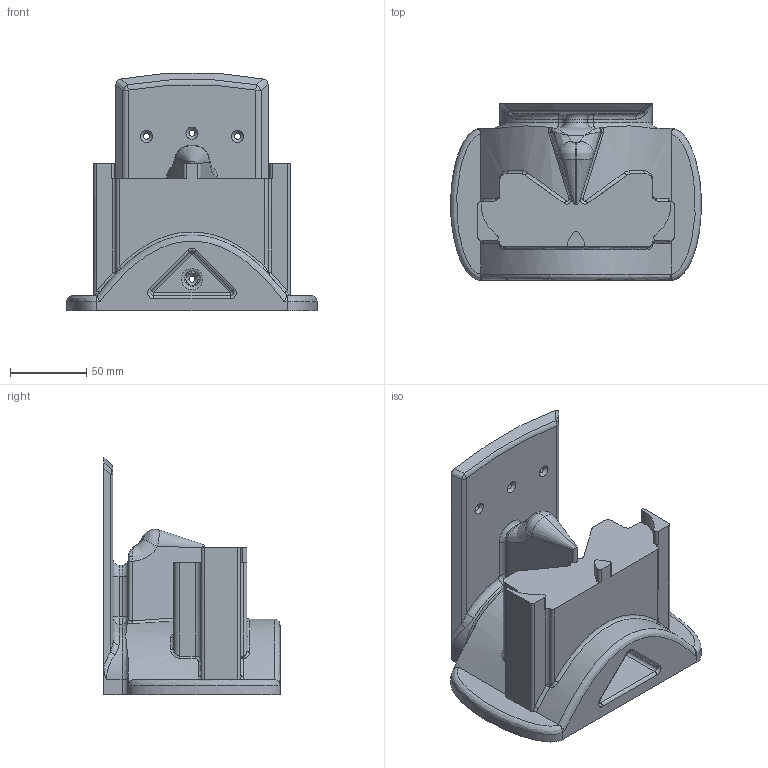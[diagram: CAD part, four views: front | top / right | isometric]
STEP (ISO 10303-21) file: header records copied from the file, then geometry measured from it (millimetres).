
FILE_DESCRIPTION(/* description */ (''),/* implementation_level */ '2;1');
FILE_NAME(/* name */ 'D:\Users\User\Documents\Inventor Projects\ViveHMDMount\ViveWallMount.stp',/* time_stamp */ '2016-04-27T01:15:38+02:00',/* author */ ('User'),/* organization */ (''),/* preprocessor_version */ 'ST-DEVELOPER v16.1',/* originating_system */ 'Autodesk Inventor 2016',/* authorisation */ '');
FILE_SCHEMA (('AUTOMOTIVE_DESIGN { 1 0 10303 214 3 1 1 }'));
Length unit declared in the file: millimetre
Products named in the file (1): BasePlate
Bounding box: 164.99 x 116 x 156.51 mm (x, y, z)
Volume: 857838.9 mm3; surface area: 107352.4 mm2
Topology: 1 solids, 1 shells, 182 faces, 450 edges, 270 vertices
Faces by surface type: bspline 61, cylinder 60, plane 42, torus 7, sphere 7, cone 5
Full cylindrical faces by diameter (mm): 4 x4, 10 x1
Entity records: 7972 total; most frequent: CARTESIAN_POINT 4034, ORIENTED_EDGE 868, DIRECTION 719, EDGE_CURVE 434, AXIS2_PLACEMENT_3D 287, VERTEX_POINT 266, EDGE_LOOP 202, FACE_OUTER_BOUND 182
